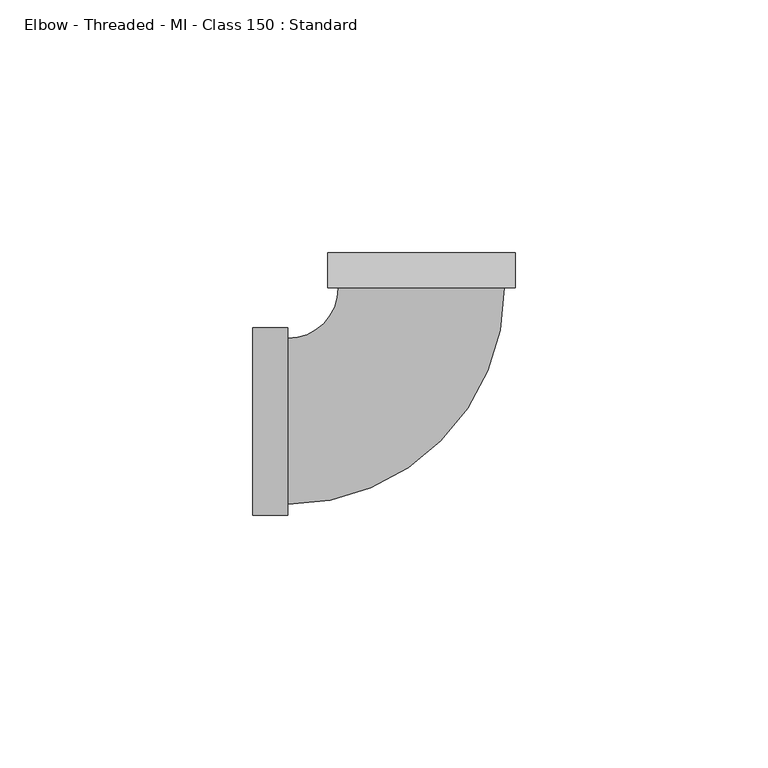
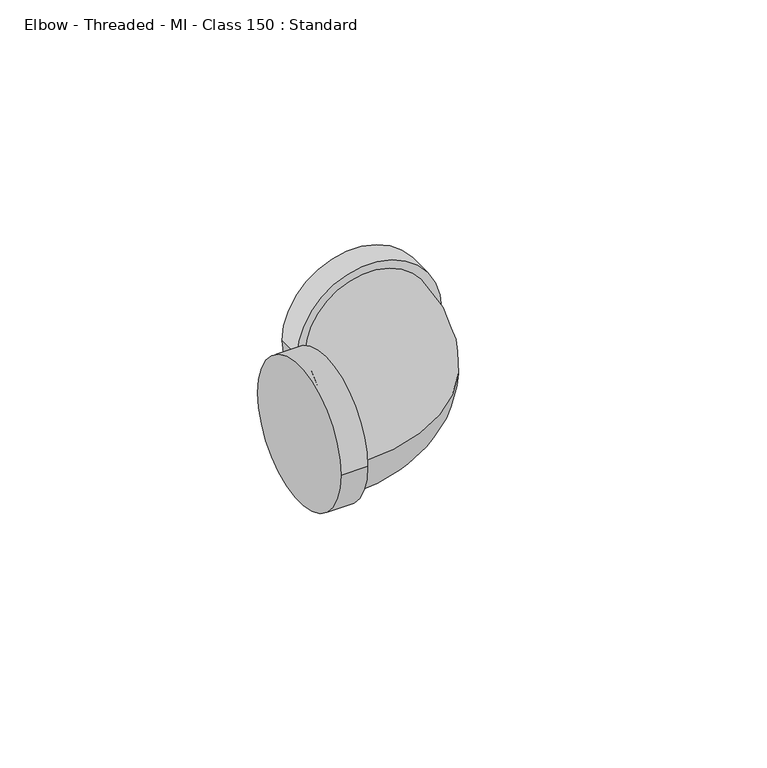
"""IFC4 building model written with IfcOpenShell, lengths in millimetres: pipe fitting geometry, Elbow - Threaded - MI - Class 150 : Standard."""

from ifc_helpers import new_model, si_unit, point, frame, origin, place, context, project, spatial, circle_curve, ellipse_curve, trimmed, source, transform, mapped, element, save
from ifc_brep_helpers import plane_surface, cylinder_surface, revolved_surface, advanced_brep


def elbow_threaded_mi_class_150_standard_46a92b09(model_context):
    return source(origin(), model_context, "Body", "AdvancedBrep", [
        advanced_brep(
        [(-33.3, -18.5, 0.0), (-33.3, 18.5, 0.0), (-26.4, -18.5, 0.0), (-26.4, 18.5, 0.0), (-26.4, -16.4, 0.0), (-26.4, 16.4, 0.0), (18.5, 26.4, 0.0), (-18.5, 26.4, 0.0), (-16.4, 26.4, 0.0), (16.4, 26.4, 0.0), (18.5, 33.3, 0.0), (-18.5, 33.3, 0.0)],
        [
            (0, 1, circle_curve(frame((-33.3, 0.0, 0.0), z_axis=(-1.0, 0.0, 0.0), x_axis=(0.0, 1.0, 0.0)), 18.5)),
            (1, 0, circle_curve(frame((-33.3, 0.0, 0.0), z_axis=(-1.0, 0.0, 0.0), x_axis=(0.0, 1.0, 0.0)), 18.5)),
            (2, 3, circle_curve(frame((-26.4, 0.0, 0.0), z_axis=(1.0, 0.0, 0.0), x_axis=(0.0, 1.0, 0.0)), 18.5)),
            (3, 2, circle_curve(frame((-26.4, 0.0, 0.0), z_axis=(1.0, 0.0, 0.0), x_axis=(0.0, 1.0, 0.0)), 18.5)),
            (4, 5, circle_curve(frame((-26.4, 0.0, 0.0), z_axis=(-1.0, 0.0, 0.0), x_axis=(0.0, 1.0, 0.0)), 16.4)),
            (5, 4, circle_curve(frame((-26.4, 0.0, 0.0), z_axis=(-1.0, 0.0, 0.0), x_axis=(0.0, 1.0, 0.0)), 16.4)),
            (0, 2),
            (3, 1),
            (6, 7, circle_curve(frame((0.0, 26.4, 0.0), z_axis=(0.0, -1.0, 0.0), x_axis=(-1.0, 0.0, 0.0)), 18.5)),
            (7, 6, circle_curve(frame((0.0, 26.4, 0.0), z_axis=(0.0, -1.0, 0.0), x_axis=(-1.0, 0.0, 0.0)), 18.5)),
            (8, 9, circle_curve(frame((0.0, 26.4, 0.0), z_axis=(0.0, 1.0, 0.0), x_axis=(-1.0, 0.0, 0.0)), 16.4)),
            (9, 8, circle_curve(frame((0.0, 26.4, 0.0), z_axis=(0.0, 1.0, 0.0), x_axis=(-1.0, 0.0, 0.0)), 16.4)),
            (10, 11, circle_curve(frame((0.0, 33.3, 0.0), z_axis=(0.0, 1.0, 0.0), x_axis=(-1.0, 0.0, 0.0)), 18.5)),
            (11, 10, circle_curve(frame((0.0, 33.3, 0.0), z_axis=(0.0, 1.0, 0.0), x_axis=(-1.0, 0.0, 0.0)), 18.5)),
            (6, 10),
            (11, 7),
            (8, 5, circle_curve(frame((-26.4, 26.4, 0.0), z_axis=(0.0, 0.0, -1.0), x_axis=(0.0, -1.0, 0.0)), 10.0)),
            (4, 9, circle_curve(frame((-26.4, 26.4, 0.0), z_axis=(0.0, 0.0, 1.0), x_axis=(0.0, -1.0, 0.0)), 42.8)),
        ],
        [
            plane_surface(frame((-33.3, 0.0, 0.0), z_axis=(-1.0, 0.0, 0.0), x_axis=(0.0, 0.0, 1.0))),
            plane_surface(frame((-26.4, 0.0, 0.0), z_axis=(1.0, 0.0, 0.0), x_axis=(0.0, 0.0, 1.0))),
            cylinder_surface(frame((-33.3, 0.0, 0.0), z_axis=(-1.0, 0.0, 0.0), x_axis=(0.0, 1.0, 0.0)), 18.5),
            plane_surface(frame((0.0, 26.4, 0.0), z_axis=(0.0, -1.0, 0.0), x_axis=(0.0, 0.0, 1.0))),
            plane_surface(frame((0.0, 33.3, 0.0), z_axis=(0.0, 1.0, 0.0), x_axis=(0.0, 0.0, 1.0))),
            cylinder_surface(frame((0.0, 26.4, 0.0), z_axis=(0.0, -1.0, 0.0), x_axis=(-1.0, 0.0, 0.0)), 18.5),
            revolved_surface(trimmed(ellipse_curve(frame((-26.4, 0.0, 0.0), z_axis=(-1.0, 0.0, 0.0), x_axis=(0.0, 1.0, 0.0)), 16.4, 16.4), [point((-26.4, -16.4, 0.0))], [point((-26.4, 16.4, 0.0))], True, "CARTESIAN"), (-26.4, 26.4, 0.0), (0.0, 0.0, 1.0)),
            revolved_surface(trimmed(ellipse_curve(frame((-26.4, 0.0, 0.0), z_axis=(-1.0, 0.0, 0.0), x_axis=(0.0, 1.0, 0.0)), 16.4, 16.4), [point((-26.4, 16.4, 0.0))], [point((-26.4, -16.4, 0.0))], True, "CARTESIAN"), (-26.4, 26.4, 0.0), (0.0, 0.0, 1.0)),
        ],
        [
            (0, [[1, 2]]),
            (1, [[3, 4], [5, 6]]),
            (2, [[-1, 7, -4, 8]]),
            (2, [[-2, -8, -3, -7]]),
            (3, [[9, 10], [11, 12]]),
            (4, [[13, 14]]),
            (5, [[-9, 15, -14, 16]]),
            (5, [[-10, -16, -13, -15]]),
            (6, [[17, -5, 18, -11]]),
            (7, [[-17, -12, -18, -6]]),
        ],
    ),
    ])


if __name__ == "__main__":
    model = new_model("IFC4")
    model_context = context("Model", 3, world=origin())
    ifc_project = project(units=[si_unit("LENGTHUNIT", "METRE", prefix="MILLI")], contexts=[model_context])
    site = spatial("IfcSite", under=ifc_project)
    building = spatial("IfcBuilding", under=site)
    placement = place(None, origin())
    elbow_threaded_mi_class_150_standard_shape = elbow_threaded_mi_class_150_standard_46a92b09(model_context)
    element("IfcPipeFitting", 1, ObjectType="Elbow - Threaded - MI - Class 150 : Standard", at=placement, inside=building, context=model_context, shape_type="MappedRepresentation", body=[
        mapped(elbow_threaded_mi_class_150_standard_shape, transform((0.0, 0.0, 0.0), x_axis=(1.0, 0.0, 0.0), y_axis=(0.0, 1.0, 0.0), z_axis=(0.0, 0.0, 1.0))),
    ])
    save(model, "model.ifc")
